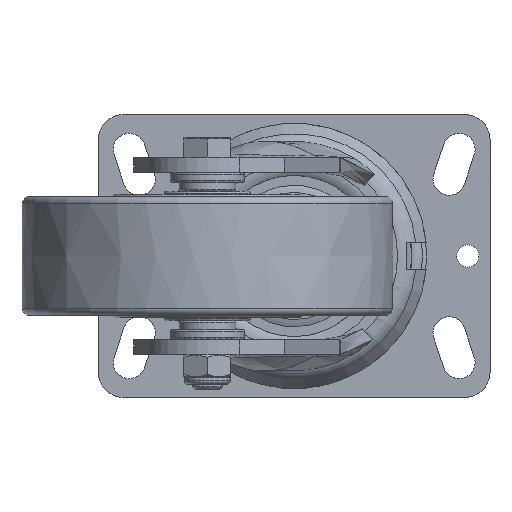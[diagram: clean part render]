
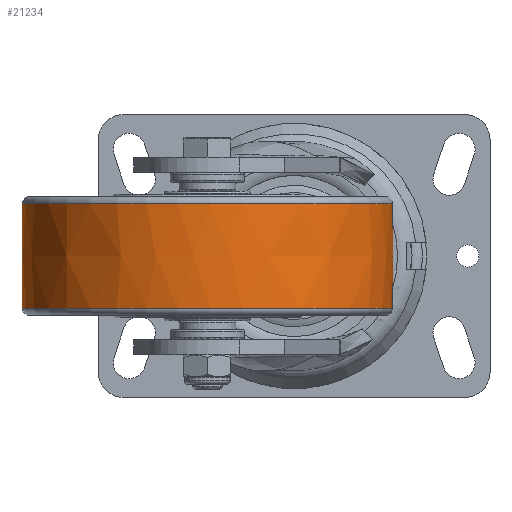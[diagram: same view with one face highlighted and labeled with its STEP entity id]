
A CAD part, front view. The second image highlights one B-rep face of the part: STEP entity #21234.
In plain terms, the highlighted free-form (B-spline) face has degree [2, 2] with [3, 9] control points.
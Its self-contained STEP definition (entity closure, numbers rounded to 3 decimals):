
#13=(
BOUNDED_SURFACE()
B_SPLINE_SURFACE(2,2,((#35272,#35273,#35274,#35275,#35276,#35277,#35278,
#35279,#35280),(#35281,#35282,#35283,#35284,#35285,#35286,#35287,#35288,
#35289),(#35290,#35291,#35292,#35293,#35294,#35295,#35296,#35297,#35298)),
 .UNSPECIFIED.,.F.,.T.,.F.)
B_SPLINE_SURFACE_WITH_KNOTS((3,3),(3,2,2,2,3),(-0.03,0.03),
(-3.142,-1.571,0.,1.571,3.142),
 .UNSPECIFIED.)
GEOMETRIC_REPRESENTATION_ITEM()
RATIONAL_B_SPLINE_SURFACE(((1.,0.707,1.,0.707,1.,
0.707,1.,0.707,1.),(1.,0.707,
1.,0.707,1.,0.707,
1.,0.707,1.),(1.,0.707,
1.,0.707,1.,0.707,1.,0.707,1.)))
REPRESENTATION_ITEM('')
SURFACE()
);
#286=(
BOUNDED_CURVE()
B_SPLINE_CURVE(2,(#35303,#35304,#35305),.UNSPECIFIED.,.F.,.F.)
B_SPLINE_CURVE_WITH_KNOTS((3,3),(-0.03,0.03),
 .UNSPECIFIED.)
CURVE()
GEOMETRIC_REPRESENTATION_ITEM()
RATIONAL_B_SPLINE_CURVE((1.,1.,1.))
REPRESENTATION_ITEM('')
);
#6454=FACE_OUTER_BOUND('',#7642,.T.);
#7642=EDGE_LOOP('',(#18170,#18171,#18172,#18173,#18174,#18175));
#7854=CIRCLE('',#22451,74.682);
#7855=CIRCLE('',#22452,74.682);
#7857=CIRCLE('',#22454,74.682);
#7858=CIRCLE('',#22455,74.682);
#9740=VERTEX_POINT('',#35266);
#9741=VERTEX_POINT('',#35267);
#9743=VERTEX_POINT('',#35299);
#9744=VERTEX_POINT('',#35300);
#12558=EDGE_CURVE('',#9740,#9741,#7854,.T.);
#12559=EDGE_CURVE('',#9741,#9740,#7855,.T.);
#12561=EDGE_CURVE('',#9743,#9744,#7857,.T.);
#12562=EDGE_CURVE('',#9744,#9743,#7858,.T.);
#12563=EDGE_CURVE('',#9744,#9741,#286,.T.);
#18170=ORIENTED_EDGE('',*,*,#12561,.F.);
#18171=ORIENTED_EDGE('',*,*,#12562,.F.);
#18172=ORIENTED_EDGE('',*,*,#12563,.T.);
#18173=ORIENTED_EDGE('',*,*,#12559,.T.);
#18174=ORIENTED_EDGE('',*,*,#12558,.T.);
#18175=ORIENTED_EDGE('',*,*,#12563,.F.);
#21234=ADVANCED_FACE('',(#6454),#13,.F.);
#22451=AXIS2_PLACEMENT_3D('',#35268,#27314,#27315);
#22452=AXIS2_PLACEMENT_3D('',#35269,#27316,#27317);
#22454=AXIS2_PLACEMENT_3D('',#35301,#27320,#27321);
#22455=AXIS2_PLACEMENT_3D('',#35302,#27322,#27323);
#27314=DIRECTION('center_axis',(0.,0.,
1.));
#27315=DIRECTION('ref_axis',(0.652,-0.758,0.));
#27316=DIRECTION('center_axis',(0.,0.,
1.));
#27317=DIRECTION('ref_axis',(0.652,-0.758,0.));
#27320=DIRECTION('center_axis',(0.,0.,
1.));
#27321=DIRECTION('ref_axis',(0.652,-0.758,0.));
#27322=DIRECTION('center_axis',(0.,0.,
1.));
#27323=DIRECTION('ref_axis',(0.652,-0.758,0.));
#35266=CARTESIAN_POINT('',(24.254,-56.915,-21.09));
#35267=CARTESIAN_POINT('',(-81.064,-48.985,-21.09));
#35268=CARTESIAN_POINT('Origin',(-32.37,-105.609,-21.09));
#35269=CARTESIAN_POINT('Origin',(-32.37,-105.609,-21.09));
#35272=CARTESIAN_POINT('Ctrl Pts',(-81.064,-48.985,-21.09));
#35273=CARTESIAN_POINT('Ctrl Pts',(-137.688,-97.68,
-21.09));
#35274=CARTESIAN_POINT('Ctrl Pts',(-88.994,-154.304,
-21.09));
#35275=CARTESIAN_POINT('Ctrl Pts',(-40.299,-210.928,
-21.09));
#35276=CARTESIAN_POINT('Ctrl Pts',(16.325,-162.233,-21.09));
#35277=CARTESIAN_POINT('Ctrl Pts',(72.949,-113.539,-21.09));
#35278=CARTESIAN_POINT('Ctrl Pts',(24.254,-56.915,-21.09));
#35279=CARTESIAN_POINT('Ctrl Pts',(-24.44,-0.291,
-21.09));
#35280=CARTESIAN_POINT('Ctrl Pts',(-81.064,-48.985,-21.09));
#35281=CARTESIAN_POINT('Ctrl Pts',(-81.479,-48.503,
0.));
#35282=CARTESIAN_POINT('Ctrl Pts',(-138.585,-97.613,
0.));
#35283=CARTESIAN_POINT('Ctrl Pts',(-89.476,-154.719,
0.));
#35284=CARTESIAN_POINT('Ctrl Pts',(-40.367,-211.824,
0.));
#35285=CARTESIAN_POINT('Ctrl Pts',(16.739,-162.715,0.));
#35286=CARTESIAN_POINT('Ctrl Pts',(73.845,-113.606,0.));
#35287=CARTESIAN_POINT('Ctrl Pts',(24.736,-56.5,0.));
#35288=CARTESIAN_POINT('Ctrl Pts',(-24.373,0.606,
0.));
#35289=CARTESIAN_POINT('Ctrl Pts',(-81.479,-48.503,
0.));
#35290=CARTESIAN_POINT('Ctrl Pts',(-81.064,-48.985,
21.09));
#35291=CARTESIAN_POINT('Ctrl Pts',(-137.688,-97.68,
21.09));
#35292=CARTESIAN_POINT('Ctrl Pts',(-88.994,-154.304,
21.09));
#35293=CARTESIAN_POINT('Ctrl Pts',(-40.299,-210.928,21.09));
#35294=CARTESIAN_POINT('Ctrl Pts',(16.325,-162.233,21.09));
#35295=CARTESIAN_POINT('Ctrl Pts',(72.949,-113.539,21.09));
#35296=CARTESIAN_POINT('Ctrl Pts',(24.254,-56.915,21.09));
#35297=CARTESIAN_POINT('Ctrl Pts',(-24.44,-0.291,
21.09));
#35298=CARTESIAN_POINT('Ctrl Pts',(-81.064,-48.985,
21.09));
#35299=CARTESIAN_POINT('',(24.254,-56.915,21.09));
#35300=CARTESIAN_POINT('',(-81.064,-48.985,21.09));
#35301=CARTESIAN_POINT('Origin',(-32.37,-105.609,21.09));
#35302=CARTESIAN_POINT('Origin',(-32.37,-105.609,21.09));
#35303=CARTESIAN_POINT('Ctrl Pts',(-81.064,-48.985,
21.09));
#35304=CARTESIAN_POINT('Ctrl Pts',(-81.479,-48.503,
0.));
#35305=CARTESIAN_POINT('Ctrl Pts',(-81.064,-48.985,-21.09));
